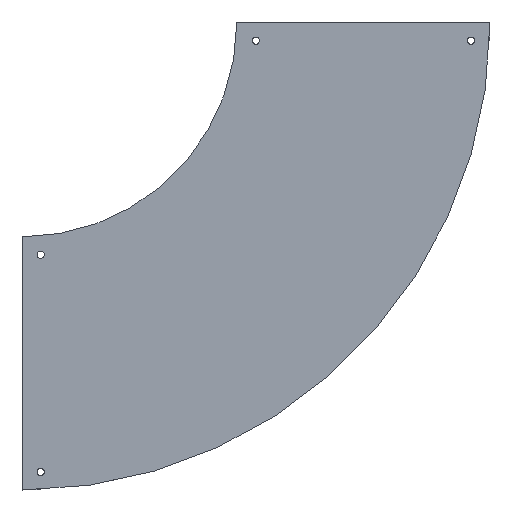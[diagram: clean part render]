
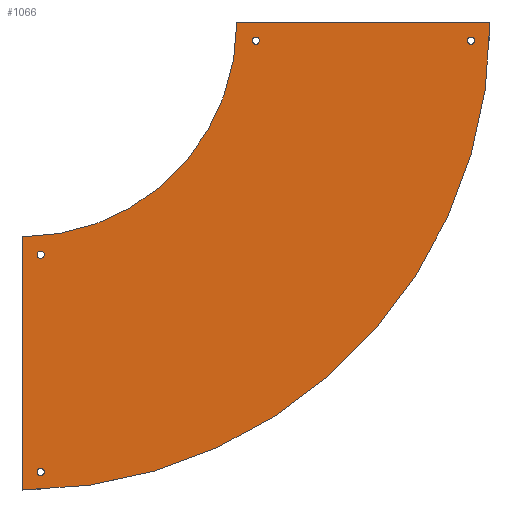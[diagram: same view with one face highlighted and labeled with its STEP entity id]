
A CAD part, top view. The second image highlights one B-rep face of the part: STEP entity #1066.
In plain terms, the highlighted planar face has unit normal (0, 0, 1).
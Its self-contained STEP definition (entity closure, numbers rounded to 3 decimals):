
#49=FACE_BOUND('',#205,.T.);
#50=FACE_BOUND('',#206,.T.);
#51=FACE_BOUND('',#207,.T.);
#52=FACE_BOUND('',#208,.T.);
#63=CIRCLE('',#1156,298.5);
#64=CIRCLE('',#1157,651.5);
#65=CIRCLE('',#1158,5.);
#66=CIRCLE('',#1159,5.);
#67=CIRCLE('',#1160,5.);
#68=CIRCLE('',#1161,5.);
#69=CIRCLE('',#1162,5.);
#70=CIRCLE('',#1163,5.);
#71=CIRCLE('',#1164,5.);
#72=CIRCLE('',#1165,5.);
#134=FACE_OUTER_BOUND('',#204,.T.);
#204=EDGE_LOOP('',(#826,#827,#828,#829,#830,#831,#832,#833));
#205=EDGE_LOOP('',(#834,#835));
#206=EDGE_LOOP('',(#836,#837));
#207=EDGE_LOOP('',(#838,#839));
#208=EDGE_LOOP('',(#840,#841));
#297=LINE('',#1670,#405);
#298=LINE('',#1673,#406);
#306=LINE('',#1708,#414);
#307=LINE('',#1713,#415);
#308=LINE('',#1715,#416);
#309=LINE('',#1717,#417);
#405=VECTOR('',#1333,304.8);
#406=VECTOR('',#1336,304.8);
#414=VECTOR('',#1368,304.8);
#415=VECTOR('',#1373,304.8);
#416=VECTOR('',#1374,304.8);
#417=VECTOR('',#1375,304.8);
#494=VERTEX_POINT('',#1663);
#497=VERTEX_POINT('',#1668);
#498=VERTEX_POINT('',#1672);
#513=VERTEX_POINT('',#1706);
#514=VERTEX_POINT('',#1710);
#515=VERTEX_POINT('',#1712);
#516=VERTEX_POINT('',#1714);
#517=VERTEX_POINT('',#1716);
#518=VERTEX_POINT('',#1719);
#519=VERTEX_POINT('',#1720);
#520=VERTEX_POINT('',#1723);
#521=VERTEX_POINT('',#1724);
#522=VERTEX_POINT('',#1727);
#523=VERTEX_POINT('',#1728);
#524=VERTEX_POINT('',#1731);
#525=VERTEX_POINT('',#1732);
#609=EDGE_CURVE('',#497,#494,#297,.T.);
#610=EDGE_CURVE('',#494,#498,#298,.T.);
#628=EDGE_CURVE('',#513,#497,#306,.T.);
#629=EDGE_CURVE('',#513,#514,#63,.T.);
#630=EDGE_CURVE('',#514,#515,#307,.T.);
#631=EDGE_CURVE('',#515,#516,#308,.T.);
#632=EDGE_CURVE('',#516,#517,#309,.T.);
#633=EDGE_CURVE('',#517,#498,#64,.T.);
#634=EDGE_CURVE('',#518,#519,#65,.T.);
#635=EDGE_CURVE('',#519,#518,#66,.T.);
#636=EDGE_CURVE('',#520,#521,#67,.T.);
#637=EDGE_CURVE('',#521,#520,#68,.T.);
#638=EDGE_CURVE('',#522,#523,#69,.T.);
#639=EDGE_CURVE('',#523,#522,#70,.T.);
#640=EDGE_CURVE('',#524,#525,#71,.T.);
#641=EDGE_CURVE('',#525,#524,#72,.T.);
#826=ORIENTED_EDGE('',*,*,#609,.F.);
#827=ORIENTED_EDGE('',*,*,#628,.F.);
#828=ORIENTED_EDGE('',*,*,#629,.T.);
#829=ORIENTED_EDGE('',*,*,#630,.T.);
#830=ORIENTED_EDGE('',*,*,#631,.T.);
#831=ORIENTED_EDGE('',*,*,#632,.T.);
#832=ORIENTED_EDGE('',*,*,#633,.T.);
#833=ORIENTED_EDGE('',*,*,#610,.F.);
#834=ORIENTED_EDGE('',*,*,#634,.T.);
#835=ORIENTED_EDGE('',*,*,#635,.T.);
#836=ORIENTED_EDGE('',*,*,#636,.T.);
#837=ORIENTED_EDGE('',*,*,#637,.T.);
#838=ORIENTED_EDGE('',*,*,#638,.T.);
#839=ORIENTED_EDGE('',*,*,#639,.T.);
#840=ORIENTED_EDGE('',*,*,#640,.T.);
#841=ORIENTED_EDGE('',*,*,#641,.T.);
#1018=PLANE('',#1155);
#1066=ADVANCED_FACE('',(#134,#49,#50,#51,#52),#1018,.T.);
#1155=AXIS2_PLACEMENT_3D('',#1709,#1369,#1370);
#1156=AXIS2_PLACEMENT_3D('',#1711,#1371,#1372);
#1157=AXIS2_PLACEMENT_3D('',#1718,#1376,#1377);
#1158=AXIS2_PLACEMENT_3D('',#1721,#1378,#1379);
#1159=AXIS2_PLACEMENT_3D('',#1722,#1380,#1381);
#1160=AXIS2_PLACEMENT_3D('',#1725,#1382,#1383);
#1161=AXIS2_PLACEMENT_3D('',#1726,#1384,#1385);
#1162=AXIS2_PLACEMENT_3D('',#1729,#1386,#1387);
#1163=AXIS2_PLACEMENT_3D('',#1730,#1388,#1389);
#1164=AXIS2_PLACEMENT_3D('',#1733,#1390,#1391);
#1165=AXIS2_PLACEMENT_3D('',#1734,#1392,#1393);
#1333=DIRECTION('',(1.,0.,0.));
#1336=DIRECTION('',(0.,-1.,0.));
#1368=DIRECTION('',(0.,1.,0.));
#1369=DIRECTION('center_axis',(0.,0.,1.));
#1370=DIRECTION('ref_axis',(0.,-1.,0.));
#1371=DIRECTION('center_axis',(0.,0.,-1.));
#1372=DIRECTION('ref_axis',(1.,0.,0.));
#1373=DIRECTION('',(-1.,0.,0.));
#1374=DIRECTION('',(0.,-1.,0.));
#1375=DIRECTION('',(1.,0.,0.));
#1376=DIRECTION('center_axis',(0.,0.,1.));
#1377=DIRECTION('ref_axis',(1.,0.,0.));
#1378=DIRECTION('center_axis',(0.,0.,-1.));
#1379=DIRECTION('ref_axis',(1.,0.,0.));
#1380=DIRECTION('center_axis',(0.,0.,-1.));
#1381=DIRECTION('ref_axis',(1.,0.,0.));
#1382=DIRECTION('center_axis',(0.,0.,-1.));
#1383=DIRECTION('ref_axis',(1.,0.,0.));
#1384=DIRECTION('center_axis',(0.,0.,-1.));
#1385=DIRECTION('ref_axis',(1.,0.,0.));
#1386=DIRECTION('center_axis',(0.,0.,-1.));
#1387=DIRECTION('ref_axis',(1.,0.,0.));
#1388=DIRECTION('center_axis',(0.,0.,-1.));
#1389=DIRECTION('ref_axis',(1.,0.,0.));
#1390=DIRECTION('center_axis',(0.,0.,-1.));
#1391=DIRECTION('ref_axis',(1.,0.,0.));
#1392=DIRECTION('center_axis',(0.,0.,-1.));
#1393=DIRECTION('ref_axis',(1.,0.,0.));
#1663=CARTESIAN_POINT('',(176.5,476.,1.5));
#1668=CARTESIAN_POINT('',(-176.5,476.,1.5));
#1670=CARTESIAN_POINT('',(-176.5,476.,1.5));
#1672=CARTESIAN_POINT('',(176.5,475.,1.5));
#1673=CARTESIAN_POINT('',(176.5,476.,1.5));
#1706=CARTESIAN_POINT('',(-176.5,475.,1.5));
#1708=CARTESIAN_POINT('',(-176.5,476.,1.5));
#1709=CARTESIAN_POINT('Origin',(-176.5,476.,1.5));
#1710=CARTESIAN_POINT('',(-475.,176.5,1.5));
#1711=CARTESIAN_POINT('Origin',(-475.,475.,1.5));
#1712=CARTESIAN_POINT('',(-476.,176.5,1.5));
#1713=CARTESIAN_POINT('',(-475.,176.5,1.5));
#1714=CARTESIAN_POINT('',(-476.,-176.5,1.5));
#1715=CARTESIAN_POINT('',(-476.,-176.5,1.5));
#1716=CARTESIAN_POINT('',(-475.,-176.5,1.5));
#1717=CARTESIAN_POINT('',(-475.,-176.5,1.5));
#1718=CARTESIAN_POINT('Origin',(-475.,475.,1.5));
#1719=CARTESIAN_POINT('',(-445.,151.5,1.5));
#1720=CARTESIAN_POINT('',(-455.,151.5,1.5));
#1721=CARTESIAN_POINT('Origin',(-450.,151.5,1.5));
#1722=CARTESIAN_POINT('Origin',(-450.,151.5,1.5));
#1723=CARTESIAN_POINT('',(-445.,-151.5,1.5));
#1724=CARTESIAN_POINT('',(-455.,-151.5,1.5));
#1725=CARTESIAN_POINT('Origin',(-450.,-151.5,1.5));
#1726=CARTESIAN_POINT('Origin',(-450.,-151.5,1.5));
#1727=CARTESIAN_POINT('',(-145.,450.,1.5));
#1728=CARTESIAN_POINT('',(-155.,450.,1.5));
#1729=CARTESIAN_POINT('Origin',(-150.,450.,1.5));
#1730=CARTESIAN_POINT('Origin',(-150.,450.,1.5));
#1731=CARTESIAN_POINT('',(155.,450.,1.5));
#1732=CARTESIAN_POINT('',(145.,450.,1.5));
#1733=CARTESIAN_POINT('Origin',(150.,450.,1.5));
#1734=CARTESIAN_POINT('Origin',(150.,450.,1.5));
